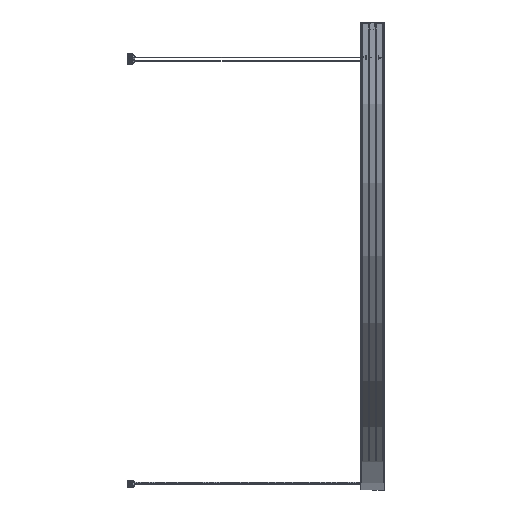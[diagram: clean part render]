
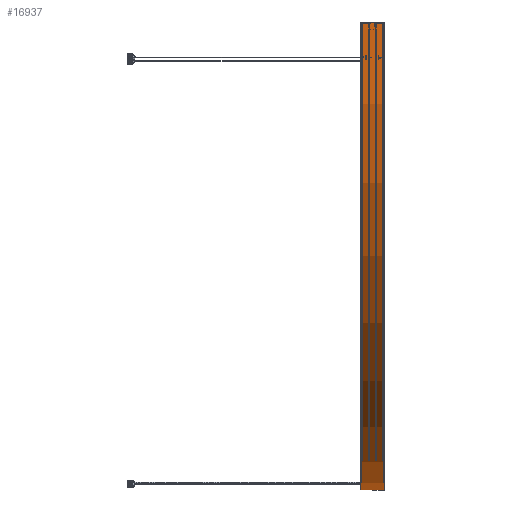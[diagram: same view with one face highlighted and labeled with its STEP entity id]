
A CAD part, left-side view. The second image highlights one B-rep face of the part: STEP entity #16937.
In plain terms, the highlighted cylindrical face has radius 1000 mm (diameter 2000 mm), a partial arc.
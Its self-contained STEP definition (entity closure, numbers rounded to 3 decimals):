
#1415 = CARTESIAN_POINT ( 'NONE',  ( 1986.75, -24.95, 0. ) ) ;
#1850 = FACE_OUTER_BOUND ( 'NONE', #17013, .T. ) ;
#3631 = DIRECTION ( 'NONE',  ( 0., 0., 1. ) ) ;
#3854 = EDGE_CURVE ( 'NONE', #10789, #16950, #8979, .T. ) ;
#4325 = ORIENTED_EDGE ( 'NONE', *, *, #3854, .T. ) ;
#4787 = CARTESIAN_POINT ( 'NONE',  ( 986.75, 0., 0. ) ) ;
#5468 = ORIENTED_EDGE ( 'NONE', *, *, #12437, .F. ) ;
#5826 = CARTESIAN_POINT ( 'NONE',  ( 986.75, 24.95, 0. ) ) ;
#5903 = VECTOR ( 'NONE', #16160, 1000. ) ;
#6047 = LINE ( 'NONE', #1415, #14292 ) ;
#6205 = EDGE_CURVE ( 'NONE', #6380, #10789, #20930, .T. ) ;
#6380 = VERTEX_POINT ( 'NONE', #12396 ) ;
#6910 = DIRECTION ( 'NONE',  ( 0., 1., 0. ) ) ;
#7622 = AXIS2_PLACEMENT_3D ( 'NONE', #8631, #6910, #3631 ) ;
#7708 = CYLINDRICAL_SURFACE ( 'NONE', #11915, 1000. ) ;
#7720 = CARTESIAN_POINT ( 'NONE',  ( 1986.75, 24.95, 0. ) ) ;
#8631 = CARTESIAN_POINT ( 'NONE',  ( 986.75, -24.95, 0. ) ) ;
#8979 = LINE ( 'NONE', #19412, #5903 ) ;
#9709 = DIRECTION ( 'NONE',  ( 0., 1., 0. ) ) ;
#10569 = EDGE_CURVE ( 'NONE', #6380, #19798, #6047, .T. ) ;
#10789 = VERTEX_POINT ( 'NONE', #20422 ) ;
#11915 = AXIS2_PLACEMENT_3D ( 'NONE', #4787, #20945, #12928 ) ;
#12396 = CARTESIAN_POINT ( 'NONE',  ( 1986.75, -24.95, 0. ) ) ;
#12437 = EDGE_CURVE ( 'NONE', #19798, #16950, #15011, .T. ) ;
#12928 = DIRECTION ( 'NONE',  ( 0., 0., 1. ) ) ;
#13813 = DIRECTION ( 'NONE',  ( 0., 0., 1. ) ) ;
#14292 = VECTOR ( 'NONE', #9709, 1000. ) ;
#15011 = CIRCLE ( 'NONE', #19332, 1000. ) ;
#15506 = DIRECTION ( 'NONE',  ( 0., 1., 0. ) ) ;
#15620 = ORIENTED_EDGE ( 'NONE', *, *, #6205, .T. ) ;
#16160 = DIRECTION ( 'NONE',  ( 0., 1., 0. ) ) ;
#16937 = ADVANCED_FACE ( 'NONE', ( #1850 ), #7708, .T. ) ;
#16950 = VERTEX_POINT ( 'NONE', #17780 ) ;
#17013 = EDGE_LOOP ( 'NONE', ( #15620, #4325, #5468, #19520 ) ) ;
#17780 = CARTESIAN_POINT ( 'NONE',  ( -13.25, 24.95, 0. ) ) ;
#19332 = AXIS2_PLACEMENT_3D ( 'NONE', #5826, #15506, #13813 ) ;
#19412 = CARTESIAN_POINT ( 'NONE',  ( -13.25, -24.95, 0. ) ) ;
#19520 = ORIENTED_EDGE ( 'NONE', *, *, #10569, .F. ) ;
#19798 = VERTEX_POINT ( 'NONE', #7720 ) ;
#20422 = CARTESIAN_POINT ( 'NONE',  ( -13.25, -24.95, 0. ) ) ;
#20930 = CIRCLE ( 'NONE', #7622, 1000. ) ;
#20945 = DIRECTION ( 'NONE',  ( 0., 1., 0. ) ) ;
